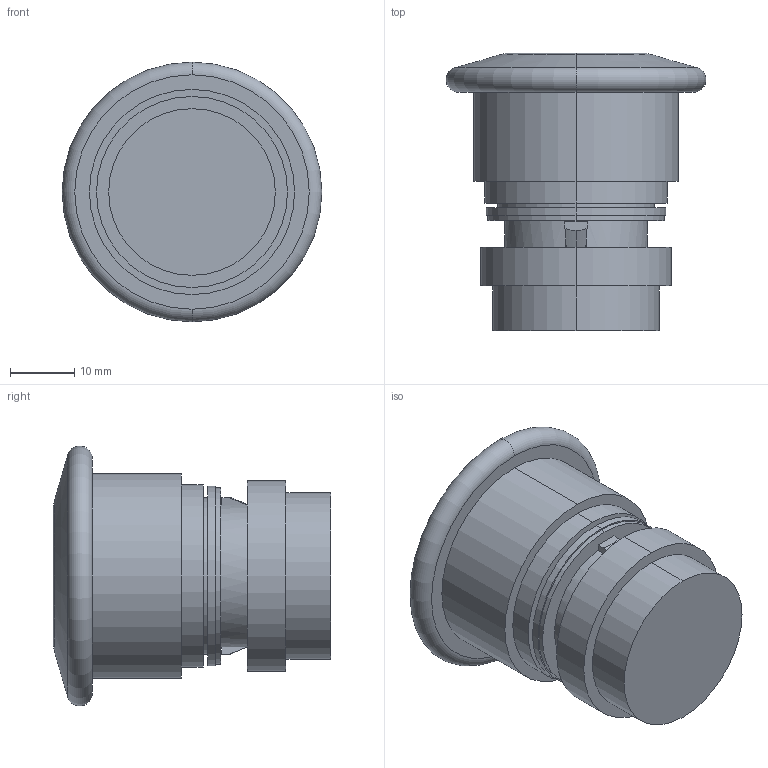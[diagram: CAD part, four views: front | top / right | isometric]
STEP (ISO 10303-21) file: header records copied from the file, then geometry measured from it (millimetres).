
FILE_DESCRIPTION (( 'STEP AP203' ), '1' );
FILE_NAME ('BS3P44.STEP', '2013-08-27T06:14:58', ( 'edv' ), ( '' ), 'SwSTEP 2.0', 'SolidWorks 2013', '' );
FILE_SCHEMA (( 'CONFIG_CONTROL_DESIGN' ));
Length unit declared in the file: millimetre
Products named in the file (1): BS3P44
Bounding box: 40.5 x 43.3 x 40.5 mm (x, y, z)
Volume: 30839.7 mm3; surface area: 7170.8 mm2
Topology: 1 solids, 1 shells, 43 faces, 91 edges, 58 vertices
Faces by surface type: plane 18, cylinder 16, cone 5, torus 4
Entity records: 1262 total; most frequent: DIRECTION 227, CARTESIAN_POINT 212, ORIENTED_EDGE 182, AXIS2_PLACEMENT_3D 95, EDGE_CURVE 91, VERTEX_POINT 58, EDGE_LOOP 51, CIRCLE 51
